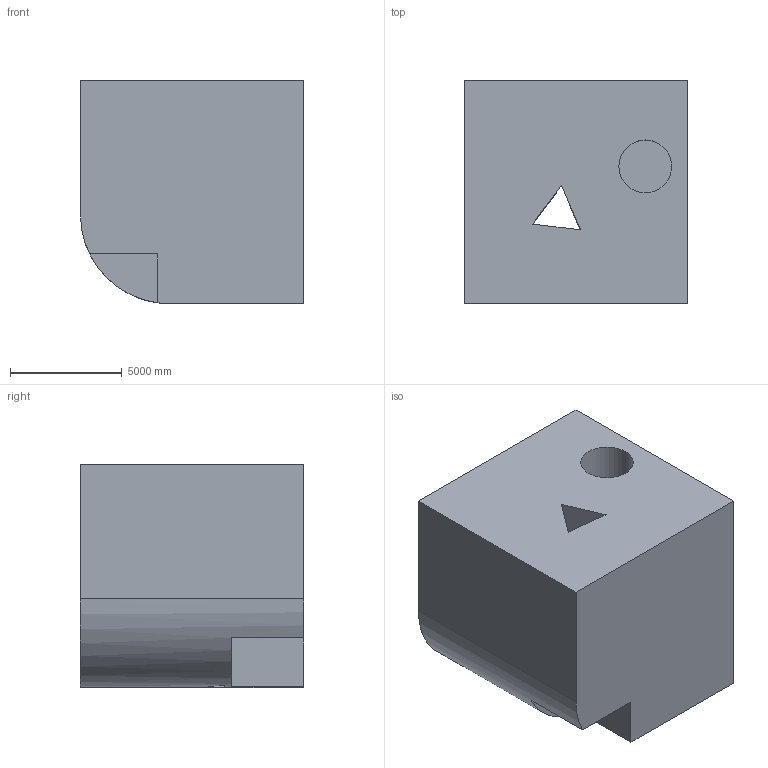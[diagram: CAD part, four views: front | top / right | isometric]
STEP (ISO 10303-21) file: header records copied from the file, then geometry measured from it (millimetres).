
FILE_DESCRIPTION (( 'STEP AP203' ), '1' );
FILE_NAME ('344.STEP', '2022-07-28T14:25:19', ( 'user' ), ( '' ), 'SwSTEP 2.0', 'SolidWorks 2021', '' );
FILE_SCHEMA (( 'CONFIG_CONTROL_DESIGN' ));
Length unit declared in the file: centimetre
Products named in the file (1): 344
Bounding box: 10000 x 10000 x 10000 mm (x, y, z)
Volume: 901034820060.7 mm3; surface area: 691903510.4 mm2
Topology: 1 solids, 1 shells, 16 faces, 42 edges, 28 vertices
Faces by surface type: plane 13, cylinder 3
Entity records: 575 total; most frequent: CARTESIAN_POINT 93, ORIENTED_EDGE 84, DIRECTION 82, EDGE_CURVE 42, LINE 32, VECTOR 32, VERTEX_POINT 28, AXIS2_PLACEMENT_3D 25
